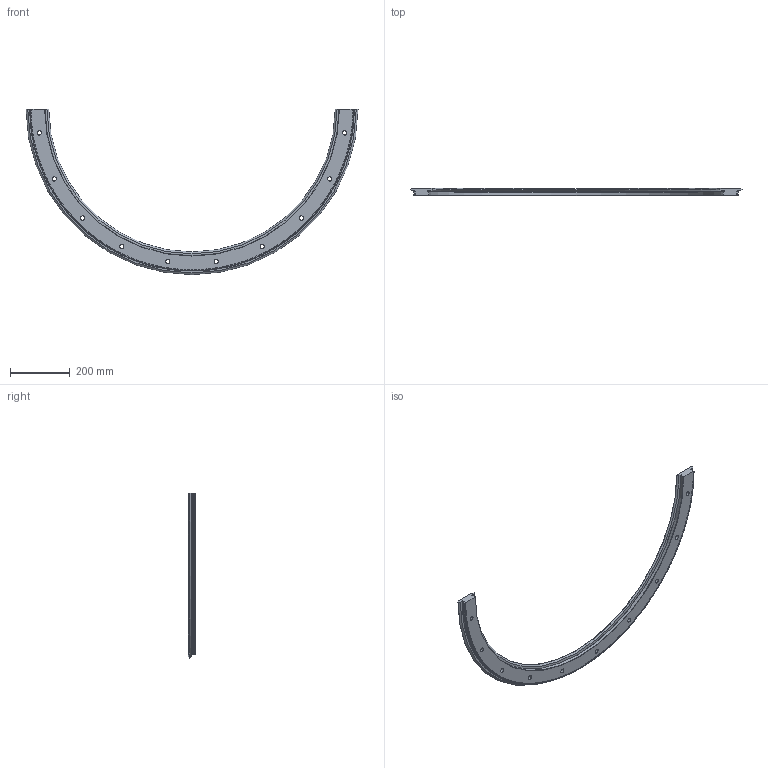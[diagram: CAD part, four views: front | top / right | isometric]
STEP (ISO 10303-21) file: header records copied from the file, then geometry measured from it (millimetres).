
FILE_DESCRIPTION( ( 'STEP AP203' ), '1' );
FILE_NAME( 'p:/temp/worker_36/temp/exporttempdir_3704_41_vAFae/format_0/R76 1033 R180 P.stp', '2021-07-19T05:42:38', ( 'License CC BY-ND 4.0' ), ( 'CADENAS' ), ' ', 'PARTsolutions', ' ' );
FILE_SCHEMA( ( 'CONFIG_CONTROL_DESIGN' ) );
Length unit declared in the file: millimetre
Products named in the file (1): _R76 1033 R180 P
Bounding box: 1108.87 x 24 x 552.44 mm (x, y, z)
Volume: 2125370.5 mm3; surface area: 360988.5 mm2
Topology: 1 solids, 1 shells, 2216 faces, 5882 edges, 3678 vertices
Faces by surface type: plane 1458, cylinder 382, cone 374, torus 2
Full cylindrical faces by diameter (mm): 14 x10, 20 x10
Entity records: 68842 total; most frequent: CARTESIAN_POINT 13968, ORIENTED_EDGE 11704, DIRECTION 11416, EDGE_CURVE 5852, AXIS2_PLACEMENT_3D 4079, VERTEX_POINT 3679, LINE 3258, VECTOR 3258
